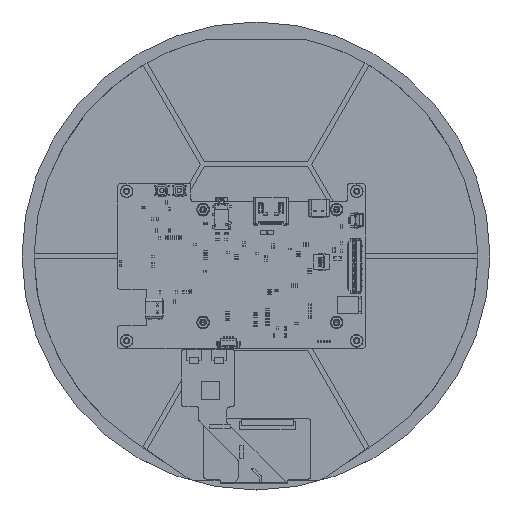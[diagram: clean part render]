
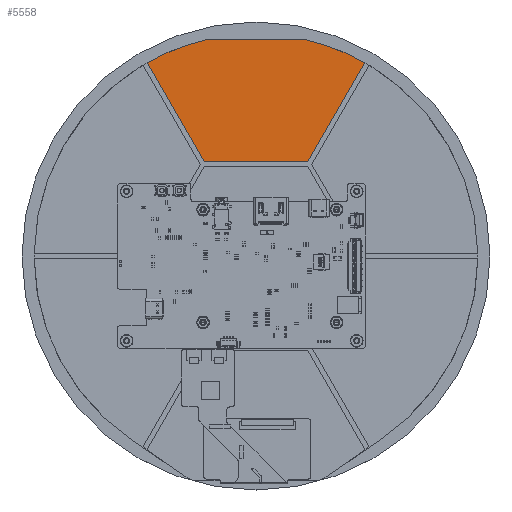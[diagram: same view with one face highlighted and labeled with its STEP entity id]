
A CAD part, top view. The second image highlights one B-rep face of the part: STEP entity #5558.
In plain terms, the highlighted planar face has unit normal (0, 0, 1) as drawn and (0, 0, -1) by its records, which use the part's own axes.
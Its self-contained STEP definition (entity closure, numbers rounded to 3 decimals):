
#4171=DIRECTION('',(0.5,-0.866,0.));
#4172=VECTOR('',#4171,49.718);
#4173=CARTESIAN_POINT('',(-47.318,83.957,0.));
#4174=LINE('',#4173,#4172);
#4175=DIRECTION('',(1.,0.,0.));
#4176=VECTOR('',#4175,44.918);
#4177=CARTESIAN_POINT('',(-22.459,40.9,0.));
#4178=LINE('',#4177,#4176);
#4179=DIRECTION('',(0.5,0.866,0.));
#4180=VECTOR('',#4179,49.718);
#4181=CARTESIAN_POINT('',(22.459,40.9,0.));
#4182=LINE('',#4181,#4180);
#4183=CARTESIAN_POINT('',(0.,0.,0.));
#4184=DIRECTION('',(0.,0.,1.));
#4185=DIRECTION('',(0.491,0.871,0.));
#4186=AXIS2_PLACEMENT_3D('',#4183,#4184,#4185);
#4188=DIRECTION('',(-1.,0.,0.));
#4189=VECTOR('',#4188,43.594);
#4190=CARTESIAN_POINT('',(21.797,93.876,0.));
#4191=LINE('',#4190,#4189);
#4192=CARTESIAN_POINT('',(0.,0.,0.));
#4193=DIRECTION('',(0.,0.,1.));
#4194=DIRECTION('',(-0.226,0.974,0.));
#4195=AXIS2_PLACEMENT_3D('',#4192,#4193,#4194);
#5089=CARTESIAN_POINT('',(21.797,93.876,0.));
#5090=CARTESIAN_POINT('',(-21.797,93.876,0.));
#5091=VERTEX_POINT('',#5089);
#5092=VERTEX_POINT('',#5090);
#5391=CARTESIAN_POINT('',(22.459,40.9,0.));
#5392=CARTESIAN_POINT('',(47.318,83.957,0.));
#5393=VERTEX_POINT('',#5391);
#5394=VERTEX_POINT('',#5392);
#5411=CARTESIAN_POINT('',(-47.318,83.957,0.));
#5412=CARTESIAN_POINT('',(-22.459,40.9,0.));
#5413=VERTEX_POINT('',#5411);
#5414=VERTEX_POINT('',#5412);
#5539=CARTESIAN_POINT('',(0.,0.,0.));
#5540=DIRECTION('',(0.,0.,1.));
#5541=DIRECTION('',(1.,0.,0.));
#5542=AXIS2_PLACEMENT_3D('',#5539,#5540,#5541);
#5543=PLANE('',#5542);
#5545=ORIENTED_EDGE('',*,*,#5544,.T.);
#5547=ORIENTED_EDGE('',*,*,#5546,.T.);
#5549=ORIENTED_EDGE('',*,*,#5548,.T.);
#5551=ORIENTED_EDGE('',*,*,#5550,.T.);
#5553=ORIENTED_EDGE('',*,*,#5552,.T.);
#5555=ORIENTED_EDGE('',*,*,#5554,.T.);
#5556=EDGE_LOOP('',(#5545,#5547,#5549,#5551,#5553,#5555));
#5557=FACE_OUTER_BOUND('',#5556,.F.);
#5558=ADVANCED_FACE('',(#5557),#5543,.F.);
#4187=CIRCLE('',#4186,96.373);
#4196=CIRCLE('',#4195,96.373);
#5544=EDGE_CURVE('',#5413,#5414,#4174,.T.);
#5546=EDGE_CURVE('',#5414,#5393,#4178,.T.);
#5548=EDGE_CURVE('',#5393,#5394,#4182,.T.);
#5550=EDGE_CURVE('',#5394,#5091,#4187,.T.);
#5552=EDGE_CURVE('',#5091,#5092,#4191,.T.);
#5554=EDGE_CURVE('',#5092,#5413,#4196,.T.);
